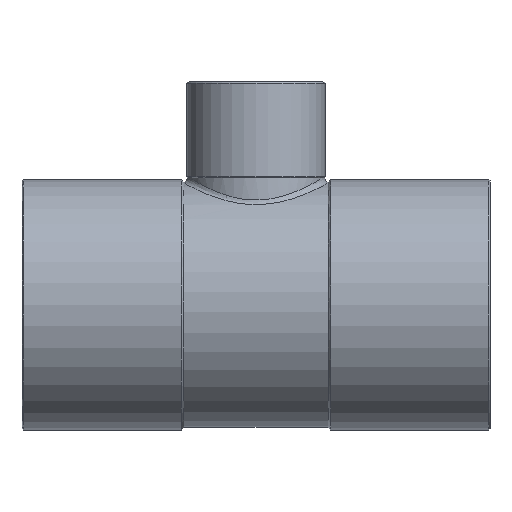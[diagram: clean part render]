
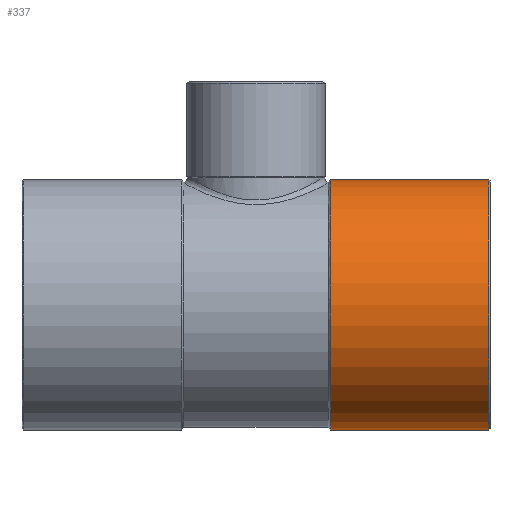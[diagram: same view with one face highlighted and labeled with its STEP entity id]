
A CAD part, top view. The second image highlights one B-rep face of the part: STEP entity #337.
In plain terms, the highlighted cylindrical face has radius 22.475 mm (diameter 44.95 mm), a partial arc.
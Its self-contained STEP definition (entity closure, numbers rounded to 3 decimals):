
#296=CARTESIAN_POINT('',(27.71,0.0,0.0));
#297=DIRECTION('',(1.0,0.0,0.0));
#298=DIRECTION('',(0.0,1.0,0.0));
#299=AXIS2_PLACEMENT_3D('',#296,#297,#298);
#300=CYLINDRICAL_SURFACE('',#299,22.475);
#301=CARTESIAN_POINT('',(13.42,22.475,0.0));
#302=VERTEX_POINT('',#301);
#303=CARTESIAN_POINT('',(41.8,22.475,0.));
#304=VERTEX_POINT('',#303);
#305=CARTESIAN_POINT('',(13.42,22.475,0.0));
#306=DIRECTION('',(1.0,0.0,0.0));
#307=VECTOR('',#306,28.38);
#308=LINE('',#305,#307);
#309=EDGE_CURVE('',#302,#304,#308,.T.);
#310=ORIENTED_EDGE('',*,*,#309,.F.);
#311=CARTESIAN_POINT('',(13.42,-22.475,0.));
#312=VERTEX_POINT('',#311);
#313=CARTESIAN_POINT('',(13.42,0.0,0.0));
#314=DIRECTION('',(1.0,0.0,0.0));
#315=DIRECTION('',(0.0,1.0,0.0));
#316=AXIS2_PLACEMENT_3D('',#313,#314,#315);
#317=CIRCLE('',#316,22.475);
#318=EDGE_CURVE('',#302,#312,#317,.T.);
#319=ORIENTED_EDGE('',*,*,#318,.T.);
#320=CARTESIAN_POINT('',(41.8,-22.475,0.));
#321=VERTEX_POINT('',#320);
#322=CARTESIAN_POINT('',(41.8,-22.475,0.));
#323=DIRECTION('',(-1.0,0.0,0.0));
#324=VECTOR('',#323,28.38);
#325=LINE('',#322,#324);
#326=EDGE_CURVE('',#321,#312,#325,.T.);
#327=ORIENTED_EDGE('',*,*,#326,.F.);
#328=CARTESIAN_POINT('',(41.8,0.0,0.0));
#329=DIRECTION('',(1.0,0.0,0.0));
#330=DIRECTION('',(0.0,-1.0,0.0));
#331=AXIS2_PLACEMENT_3D('',#328,#329,#330);
#332=CIRCLE('',#331,22.475);
#333=EDGE_CURVE('',#304,#321,#332,.T.);
#334=ORIENTED_EDGE('',*,*,#333,.F.);
#335=EDGE_LOOP('',(#310,#319,#327,#334));
#336=FACE_OUTER_BOUND('',#335,.T.);
#337=ADVANCED_FACE('',(#336),#300,.T.);
